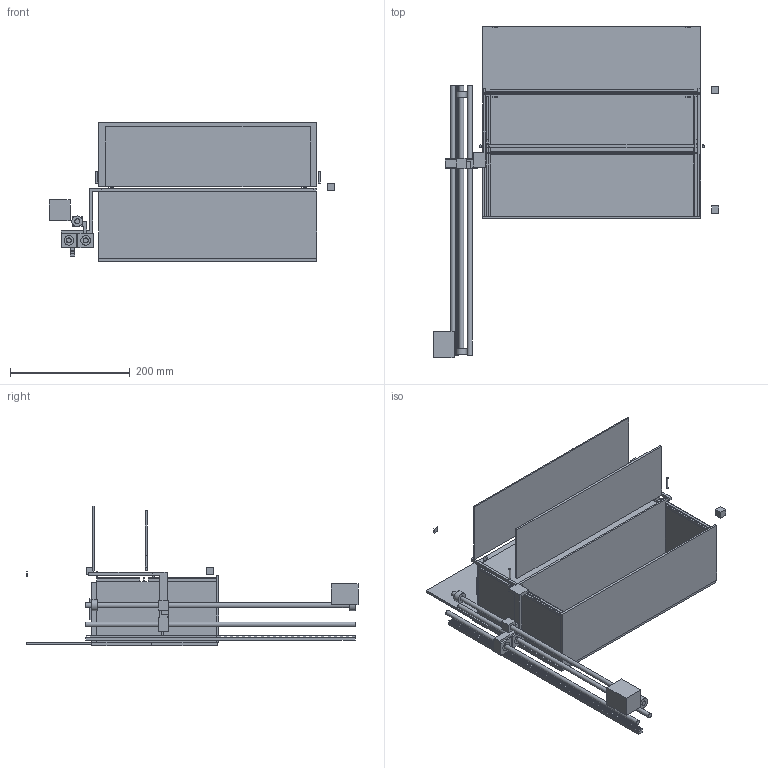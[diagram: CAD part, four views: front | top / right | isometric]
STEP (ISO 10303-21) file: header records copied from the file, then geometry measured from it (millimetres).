
FILE_DESCRIPTION(('FreeCAD Model'),'2;1');
FILE_NAME('Open CASCADE Shape Model','2026-10-19T11:23:00',('FreeCAD'),( 'FreeCAD'),'Open CASCADE STEP processor 7.8','FreeCAD','Unknown');
FILE_SCHEMA(('AUTOMOTIVE_DESIGN { 1 0 10303 214 1 1 1 1 }'));
Length unit declared in the file: millimetre
Products named in the file (1): Open CASCADE STEP translator 7.8 3
Bounding box: 477.5 x 555 x 234 mm (x, y, z)
Volume: 4924722.8 mm3; surface area: 934828.9 mm2
Topology: 30 solids, 30 shells, 1166 faces, 3315 edges, 2210 vertices
Faces by surface type: plane 1150, cylinder 16
Full cylindrical faces by diameter (mm): 4 x2, 8 x3, 8.5 x5, 16 x4, 18 x2
Entity records: 37091 total; most frequent: CARTESIAN_POINT 6692, ORIENTED_EDGE 6630, DIRECTION 5681, EDGE_CURVE 3315, LINE 3283, VECTOR 3283, VERTEX_POINT 2210, AXIS2_PLACEMENT_3D 1199
